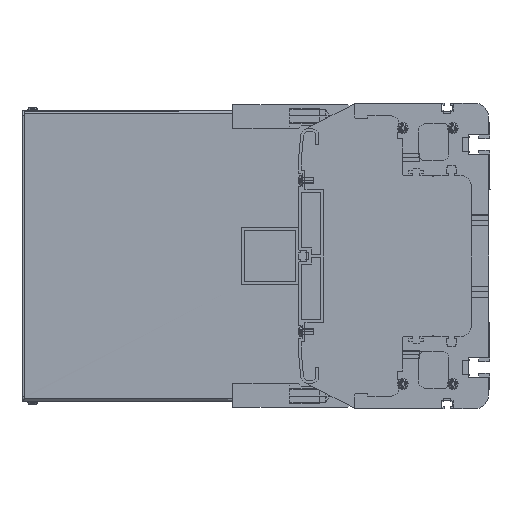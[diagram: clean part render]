
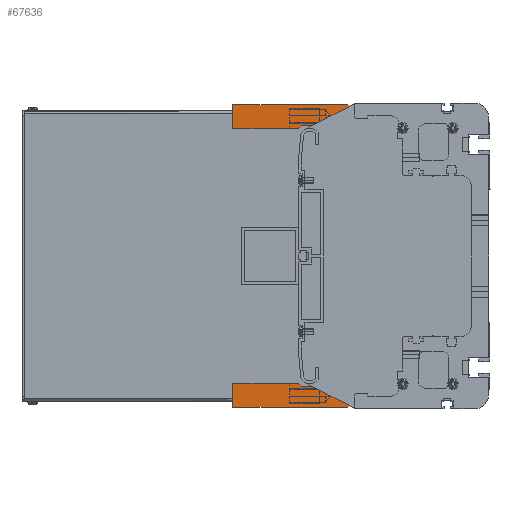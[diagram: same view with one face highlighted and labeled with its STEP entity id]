
A CAD part, left-side view. The second image highlights one B-rep face of the part: STEP entity #67636.
In plain terms, the highlighted planar face has unit normal (-1, 0, 0).
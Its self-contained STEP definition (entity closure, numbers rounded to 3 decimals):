
#63160=DIRECTION('',(0.,0.,1.));
#63161=VECTOR('',#63160,134.);
#63162=CARTESIAN_POINT('',(-434.5,111.,-67.));
#63163=LINE('',#63162,#63161);
#63425=DIRECTION('',(0.,1.,0.));
#63426=VECTOR('',#63425,46.);
#63427=CARTESIAN_POINT('',(-434.5,134.,-89.));
#63428=LINE('',#63427,#63426);
#63650=DIRECTION('',(0.,0.,1.));
#63651=VECTOR('',#63650,13.);
#63652=CARTESIAN_POINT('',(-434.5,114.5,-86.));
#63653=LINE('',#63652,#63651);
#63786=DIRECTION('',(0.,1.,0.));
#63787=VECTOR('',#63786,79.);
#63788=CARTESIAN_POINT('',(-434.5,101.,-106.));
#63789=LINE('',#63788,#63787);
#63790=DIRECTION('',(0.,-0.707,-0.707));
#63791=VECTOR('',#63790,2.828);
#63792=CARTESIAN_POINT('',(-434.5,134.,-89.));
#63793=LINE('',#63792,#63791);
#63794=CARTESIAN_POINT('',(-434.5,119.5,-86.));
#63795=DIRECTION('',(-1.,0.,0.));
#63796=DIRECTION('',(0.,0.,-1.));
#63797=AXIS2_PLACEMENT_3D('',#63794,#63795,#63796);
#63799=CARTESIAN_POINT('',(-434.5,119.5,86.));
#63800=DIRECTION('',(-1.,0.,0.));
#63801=DIRECTION('',(0.,-1.,0.));
#63802=AXIS2_PLACEMENT_3D('',#63799,#63800,#63801);
#63804=DIRECTION('',(0.,0.707,-0.707));
#63805=VECTOR('',#63804,2.828);
#63806=CARTESIAN_POINT('',(-434.5,132.,91.));
#63807=LINE('',#63806,#63805);
#63808=DIRECTION('',(0.,0.,-1.));
#63809=VECTOR('',#63808,17.);
#63810=CARTESIAN_POINT('',(-434.5,180.,106.));
#63811=LINE('',#63810,#63809);
#63812=DIRECTION('',(0.,-1.,0.));
#63813=VECTOR('',#63812,79.);
#63814=CARTESIAN_POINT('',(-434.5,180.,106.));
#63815=LINE('',#63814,#63813);
#63816=CARTESIAN_POINT('',(-434.5,101.,102.));
#63817=DIRECTION('',(1.,0.,0.));
#63818=DIRECTION('',(0.,0.,1.));
#63819=AXIS2_PLACEMENT_3D('',#63816,#63817,#63818);
#63821=CARTESIAN_POINT('',(-434.5,101.,-102.));
#63822=DIRECTION('',(1.,0.,0.));
#63823=DIRECTION('',(0.,-1.,0.));
#63824=AXIS2_PLACEMENT_3D('',#63821,#63822,#63823);
#63886=DIRECTION('',(0.,0.,1.));
#63887=VECTOR('',#63886,17.);
#63888=CARTESIAN_POINT('',(-434.5,180.,-106.));
#63889=LINE('',#63888,#63887);
#64082=DIRECTION('',(0.,0.,-1.));
#64083=VECTOR('',#64082,204.);
#64084=CARTESIAN_POINT('',(-434.5,97.,102.));
#64085=LINE('',#64084,#64083);
#64461=DIRECTION('',(0.,-1.,0.));
#64462=VECTOR('',#64461,46.);
#64463=CARTESIAN_POINT('',(-434.5,180.,89.));
#64464=LINE('',#64463,#64462);
#64512=DIRECTION('',(0.,1.,0.));
#64513=VECTOR('',#64512,12.5);
#64514=CARTESIAN_POINT('',(-434.5,119.5,91.));
#64515=LINE('',#64514,#64513);
#64582=DIRECTION('',(0.,0.,1.));
#64583=VECTOR('',#64582,13.);
#64584=CARTESIAN_POINT('',(-434.5,114.5,73.));
#64585=LINE('',#64584,#64583);
#64898=DIRECTION('',(0.,1.,0.));
#64899=VECTOR('',#64898,6.5);
#64900=CARTESIAN_POINT('',(-434.5,108.,73.));
#64901=LINE('',#64900,#64899);
#64906=DIRECTION('',(0.,0.,1.));
#64907=VECTOR('',#64906,6.);
#64908=CARTESIAN_POINT('',(-434.5,108.,67.));
#64909=LINE('',#64908,#64907);
#64914=DIRECTION('',(0.,-1.,0.));
#64915=VECTOR('',#64914,3.);
#64916=CARTESIAN_POINT('',(-434.5,111.,67.));
#64917=LINE('',#64916,#64915);
#65769=DIRECTION('',(0.,-1.,0.));
#65770=VECTOR('',#65769,12.5);
#65771=CARTESIAN_POINT('',(-434.5,132.,-91.));
#65772=LINE('',#65771,#65770);
#65773=DIRECTION('',(0.,-1.,0.));
#65774=VECTOR('',#65773,6.5);
#65775=CARTESIAN_POINT('',(-434.5,114.5,-73.));
#65776=LINE('',#65775,#65774);
#65785=DIRECTION('',(0.,0.,1.));
#65786=VECTOR('',#65785,6.);
#65787=CARTESIAN_POINT('',(-434.5,108.,-73.));
#65788=LINE('',#65787,#65786);
#65797=DIRECTION('',(0.,1.,0.));
#65798=VECTOR('',#65797,3.);
#65799=CARTESIAN_POINT('',(-434.5,108.,-67.));
#65800=LINE('',#65799,#65798);
#66085=CARTESIAN_POINT('',(-434.5,180.,106.));
#66087=VERTEX_POINT('',#66085);
#66091=CARTESIAN_POINT('',(-434.5,180.,89.));
#66092=VERTEX_POINT('',#66091);
#66106=CARTESIAN_POINT('',(-434.5,180.,-106.));
#66108=VERTEX_POINT('',#66106);
#66109=CARTESIAN_POINT('',(-434.5,180.,-89.));
#66110=VERTEX_POINT('',#66109);
#66125=CARTESIAN_POINT('',(-434.5,97.,102.));
#66126=CARTESIAN_POINT('',(-434.5,97.,-102.));
#66127=VERTEX_POINT('',#66125);
#66128=VERTEX_POINT('',#66126);
#66129=CARTESIAN_POINT('',(-434.5,101.,106.));
#66130=VERTEX_POINT('',#66129);
#66131=CARTESIAN_POINT('',(-434.5,132.,91.));
#66132=CARTESIAN_POINT('',(-434.5,134.,89.));
#66133=VERTEX_POINT('',#66131);
#66134=VERTEX_POINT('',#66132);
#66135=CARTESIAN_POINT('',(-434.5,119.5,91.));
#66136=VERTEX_POINT('',#66135);
#66137=CARTESIAN_POINT('',(-434.5,114.5,86.));
#66138=VERTEX_POINT('',#66137);
#66139=CARTESIAN_POINT('',(-434.5,114.5,73.));
#66140=VERTEX_POINT('',#66139);
#66141=CARTESIAN_POINT('',(-434.5,108.,73.));
#66142=VERTEX_POINT('',#66141);
#66143=CARTESIAN_POINT('',(-434.5,108.,67.));
#66144=VERTEX_POINT('',#66143);
#66145=CARTESIAN_POINT('',(-434.5,111.,67.));
#66146=VERTEX_POINT('',#66145);
#66147=CARTESIAN_POINT('',(-434.5,111.,-67.));
#66148=VERTEX_POINT('',#66147);
#66149=CARTESIAN_POINT('',(-434.5,108.,-67.));
#66150=VERTEX_POINT('',#66149);
#66151=CARTESIAN_POINT('',(-434.5,108.,-73.));
#66152=VERTEX_POINT('',#66151);
#66153=CARTESIAN_POINT('',(-434.5,114.5,-73.));
#66154=VERTEX_POINT('',#66153);
#66155=CARTESIAN_POINT('',(-434.5,114.5,-86.));
#66156=VERTEX_POINT('',#66155);
#66157=CARTESIAN_POINT('',(-434.5,119.5,-91.));
#66158=VERTEX_POINT('',#66157);
#66159=CARTESIAN_POINT('',(-434.5,132.,-91.));
#66160=VERTEX_POINT('',#66159);
#66161=CARTESIAN_POINT('',(-434.5,134.,-89.));
#66162=VERTEX_POINT('',#66161);
#66163=CARTESIAN_POINT('',(-434.5,101.,-106.));
#66164=VERTEX_POINT('',#66163);
#67585=CARTESIAN_POINT('',(-434.5,118.5,0.));
#67586=DIRECTION('',(1.,0.,0.));
#67587=DIRECTION('',(0.,0.,-1.));
#67588=AXIS2_PLACEMENT_3D('',#67585,#67586,#67587);
#67589=PLANE('',#67588);
#67591=ORIENTED_EDGE('',*,*,#67590,.T.);
#67593=ORIENTED_EDGE('',*,*,#67592,.T.);
#67594=ORIENTED_EDGE('',*,*,#67191,.F.);
#67596=ORIENTED_EDGE('',*,*,#67595,.T.);
#67598=ORIENTED_EDGE('',*,*,#67597,.T.);
#67599=ORIENTED_EDGE('',*,*,#67576,.T.);
#67600=ORIENTED_EDGE('',*,*,#67474,.T.);
#67602=ORIENTED_EDGE('',*,*,#67601,.T.);
#67604=ORIENTED_EDGE('',*,*,#67603,.T.);
#67606=ORIENTED_EDGE('',*,*,#67605,.T.);
#67607=ORIENTED_EDGE('',*,*,#66963,.T.);
#67609=ORIENTED_EDGE('',*,*,#67608,.T.);
#67611=ORIENTED_EDGE('',*,*,#67610,.T.);
#67613=ORIENTED_EDGE('',*,*,#67612,.T.);
#67615=ORIENTED_EDGE('',*,*,#67614,.T.);
#67617=ORIENTED_EDGE('',*,*,#67616,.T.);
#67619=ORIENTED_EDGE('',*,*,#67618,.T.);
#67621=ORIENTED_EDGE('',*,*,#67620,.T.);
#67623=ORIENTED_EDGE('',*,*,#67622,.F.);
#67625=ORIENTED_EDGE('',*,*,#67624,.F.);
#67627=ORIENTED_EDGE('',*,*,#67626,.T.);
#67629=ORIENTED_EDGE('',*,*,#67628,.T.);
#67631=ORIENTED_EDGE('',*,*,#67630,.T.);
#67633=ORIENTED_EDGE('',*,*,#67632,.T.);
#67634=EDGE_LOOP('',(#67591,#67593,#67594,#67596,#67598,#67599,#67600,#67602,
#67604,#67606,#67607,#67609,#67611,#67613,#67615,#67617,#67619,#67621,#67623,
#67625,#67627,#67629,#67631,#67633));
#67635=FACE_OUTER_BOUND('',#67634,.F.);
#67636=ADVANCED_FACE('',(#67635),#67589,.F.);
#63798=CIRCLE('',#63797,5.);
#63803=CIRCLE('',#63802,5.);
#63820=CIRCLE('',#63819,4.);
#63825=CIRCLE('',#63824,4.);
#66963=EDGE_CURVE('',#66148,#66146,#63163,.T.);
#67191=EDGE_CURVE('',#66162,#66110,#63428,.T.);
#67474=EDGE_CURVE('',#66156,#66154,#63653,.T.);
#67576=EDGE_CURVE('',#66158,#66156,#63798,.T.);
#67590=EDGE_CURVE('',#66164,#66108,#63789,.T.);
#67592=EDGE_CURVE('',#66108,#66110,#63889,.T.);
#67595=EDGE_CURVE('',#66162,#66160,#63793,.T.);
#67597=EDGE_CURVE('',#66160,#66158,#65772,.T.);
#67601=EDGE_CURVE('',#66154,#66152,#65776,.T.);
#67603=EDGE_CURVE('',#66152,#66150,#65788,.T.);
#67605=EDGE_CURVE('',#66150,#66148,#65800,.T.);
#67608=EDGE_CURVE('',#66146,#66144,#64917,.T.);
#67610=EDGE_CURVE('',#66144,#66142,#64909,.T.);
#67612=EDGE_CURVE('',#66142,#66140,#64901,.T.);
#67614=EDGE_CURVE('',#66140,#66138,#64585,.T.);
#67616=EDGE_CURVE('',#66138,#66136,#63803,.T.);
#67618=EDGE_CURVE('',#66136,#66133,#64515,.T.);
#67620=EDGE_CURVE('',#66133,#66134,#63807,.T.);
#67622=EDGE_CURVE('',#66092,#66134,#64464,.T.);
#67624=EDGE_CURVE('',#66087,#66092,#63811,.T.);
#67626=EDGE_CURVE('',#66087,#66130,#63815,.T.);
#67628=EDGE_CURVE('',#66130,#66127,#63820,.T.);
#67630=EDGE_CURVE('',#66127,#66128,#64085,.T.);
#67632=EDGE_CURVE('',#66128,#66164,#63825,.T.);
